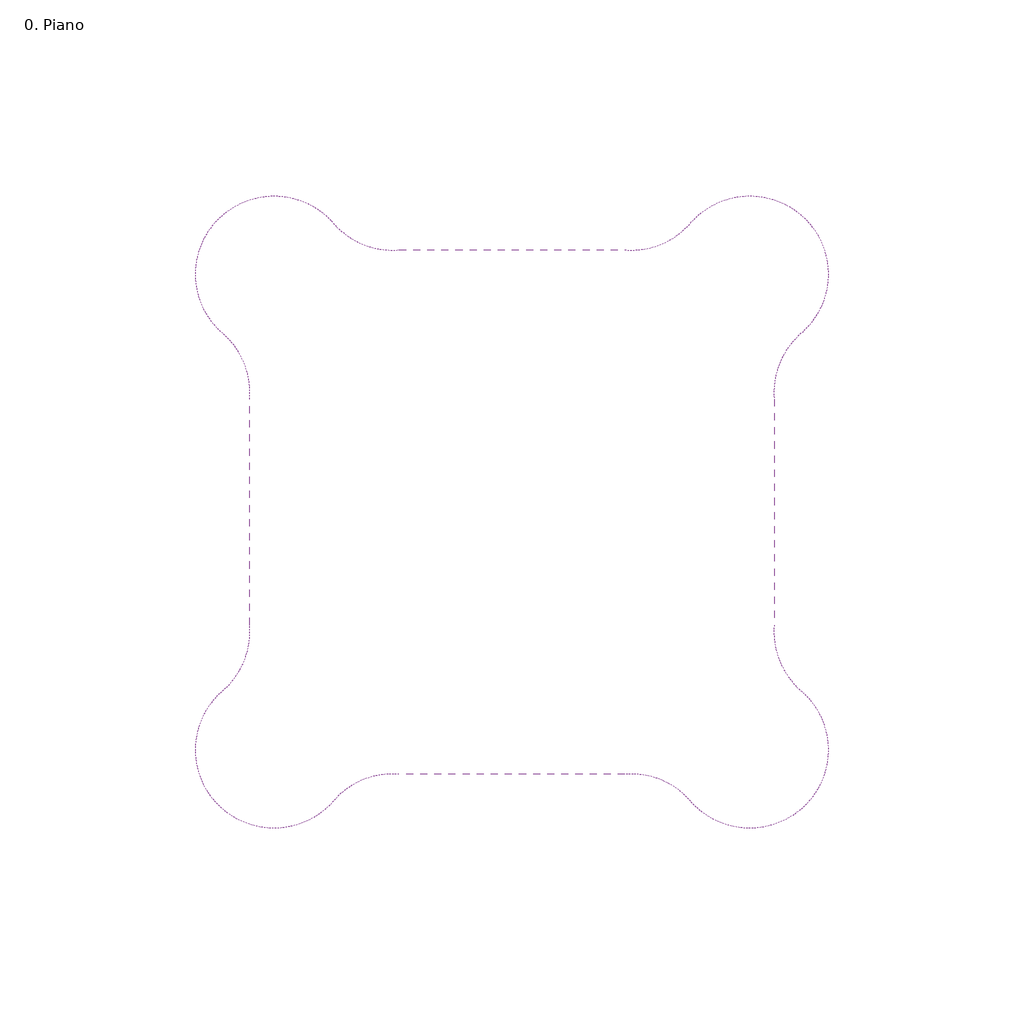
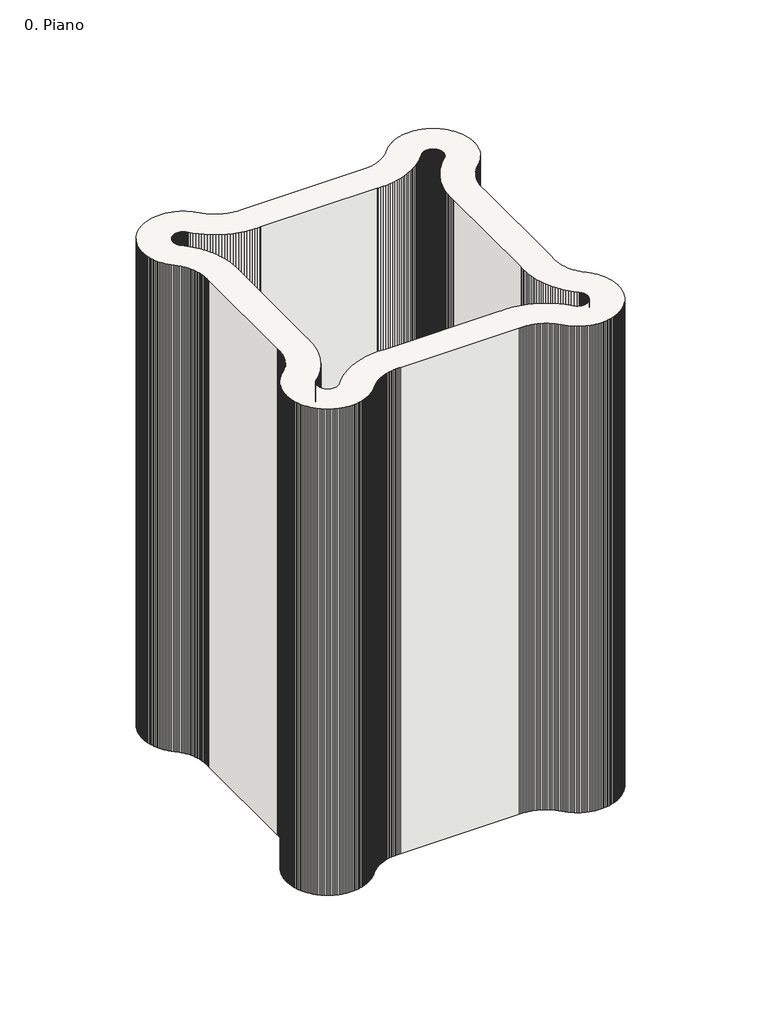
# One storey: 1 slab.
"""IFC4 building model written with IfcOpenShell, lengths in millimetres."""

from ifc_helpers import new_model, si_unit, origin, place, context, project, spatial, transform, mapped, element, save
from components import tipo_generico_1_efbd42e6

model = new_model("IFC4")

# Units and contexts
model_context = context("Model", 3, world=origin())
ifc_project = project(units=[si_unit("LENGTHUNIT", "METRE", prefix="MILLI")], contexts=[model_context])

# Site, building, storey
site = spatial("IfcSite", under=ifc_project)
building = spatial("IfcBuilding", under=site)
storey = spatial("IfcBuildingStorey", under=building, Name="0. Piano", Elevation=0.0)

# Slab
placement = place(None, origin())
tipo_generico_1_shape = tipo_generico_1_efbd42e6(model_context)
element("IfcSlab", 1, ObjectType="Tipo Generico 1", at=placement, inside=storey, context=model_context, shape_type="MappedRepresentation", body=[
    mapped(tipo_generico_1_shape, transform((0.0, 0.0, 0.0), x_axis=(1.0, 0.0, 0.0), y_axis=(0.0, 1.0, 0.0), z_axis=(0.0, 0.0, 1.0))),
])

save(model, "model.ifc")
